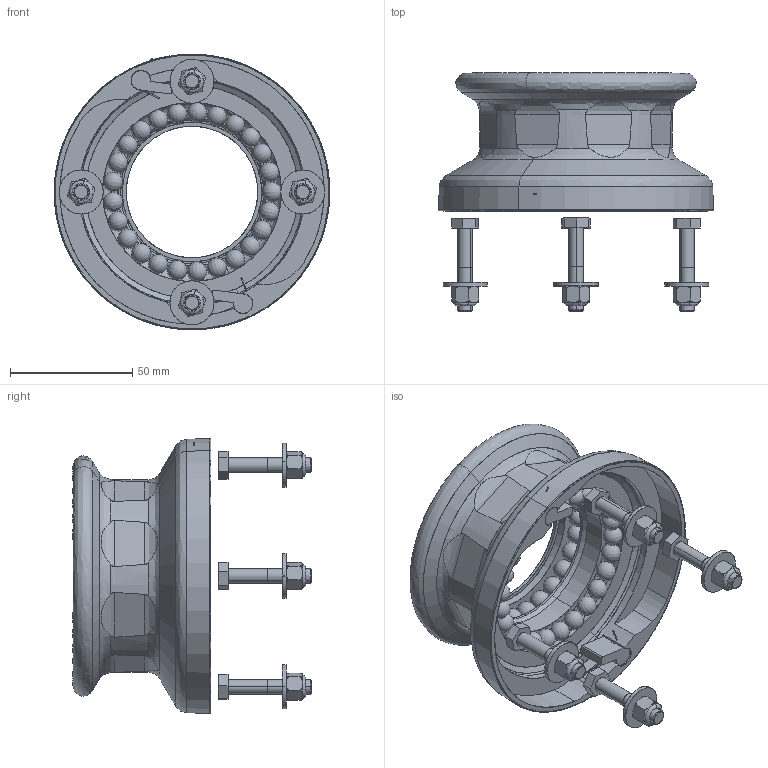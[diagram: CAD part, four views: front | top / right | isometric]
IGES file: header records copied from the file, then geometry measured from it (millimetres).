
Start section: SolidWorks IGES file using analytic representation for surfaces
Global section: file name: \\ADSERVE1\EngDataDrawings\H-78049.IGS; native system: SolidWorks 2017; preprocessor: SolidWorks 2017; author: greg.hartlmeier; date: 181207.145644; units: inch
Bounding box: 112.9 x 97.42 x 112.83 mm (x, y, z)
Surface area: 80951 mm2 (no closed solid volume)
Topology: 0 solids, 0 shells, 487 faces, 7525 edges, 7405 vertices
Faces by surface type: revolution 290, bspline 197
